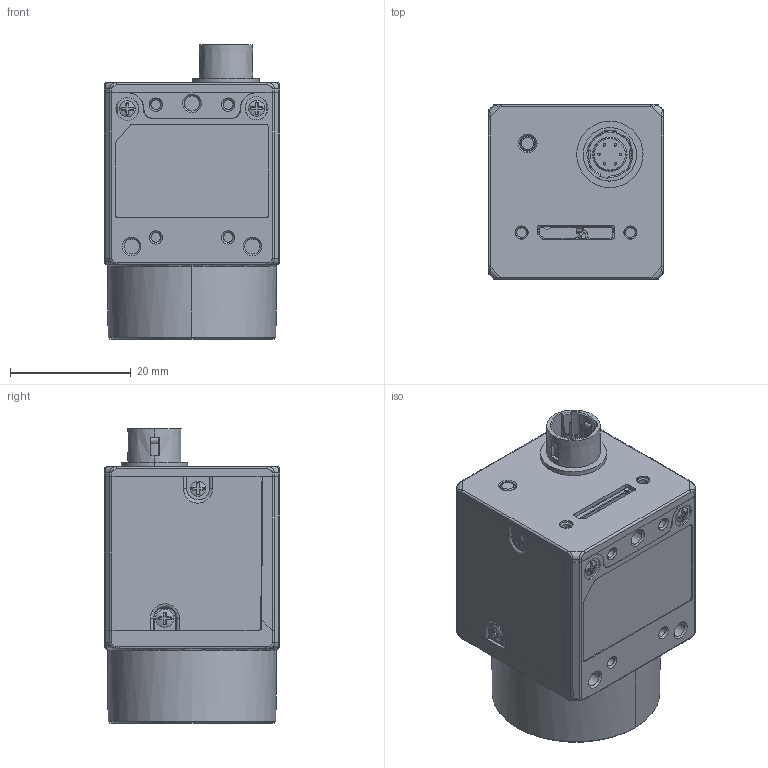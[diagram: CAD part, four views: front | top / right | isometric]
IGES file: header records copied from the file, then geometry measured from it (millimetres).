
Start section:  PTC IGES file: 29_29_30_usb000.igs
Global section: file name: 29_29_30_usb000.igs; native system: Creo Parametric by PTC Inc.; preprocessor: 2017260; author: wangyijun6; organization: Unknown; date: 20190817.155121; units: millimetre
Bounding box: 29.03 x 29 x 48.75 mm (x, y, z)
Volume: 26350 mm3; surface area: 9112.5 mm2
Topology: 1 solids, 8 shells, 1508 faces, 4216 edges, 2721 vertices
Faces by surface type: bspline 772, revolution 720, extrusion 16
